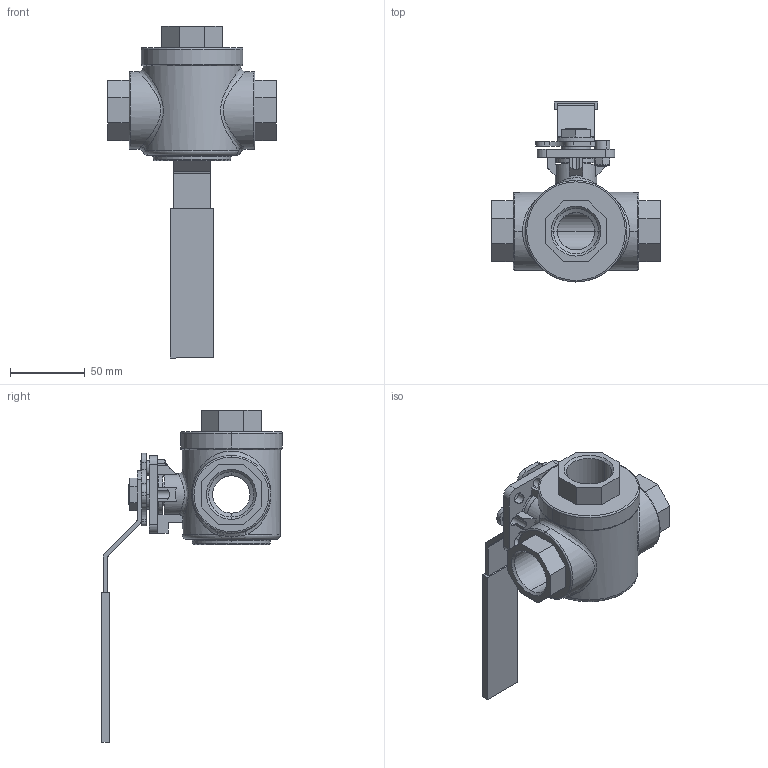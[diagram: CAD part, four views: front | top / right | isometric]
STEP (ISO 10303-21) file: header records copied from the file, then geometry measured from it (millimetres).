
FILE_DESCRIPTION (( 'STEP AP214' ), '1' );
FILE_NAME ('S57D DN25 G1 HB FB.STEP', '2013-04-02T12:21:34', ( 'Jan' ), ( '' ), 'SwSTEP 2.0', 'SolidWorks 2011', '' );
FILE_SCHEMA (( 'AUTOMOTIVE_DESIGN' ));
Length unit declared in the file: millimetre
Products named in the file (5): S57D DN25 G1 HB FB; S57D Hendel DN20 FB; S57D DN25-G1 FB; Socket Head Cap Screw_DIN_DIN 912 M6 x 12 --- 12N; Hex Nut Style 1 GradeAB_DIN_Hexagon Nut ISO 4032 - M6 - D - N
Assembly tree (4 placements, depth 2):
  S57D DN25 G1 HB FB
    S57D Hendel DN20 FB
    Socket Head Cap Screw_DIN_DIN 912 M6 x 12 --- 12N
    S57D DN25-G1 FB
    Hex Nut Style 1 GradeAB_DIN_Hexagon Nut ISO 4032 - M6 - D - N
Bounding box: 113 x 120.63 x 222.13 mm (x, y, z)
Volume: 319298.6 mm3; surface area: 68860.6 mm2
Topology: 4 solids, 4 shells, 334 faces, 859 edges, 537 vertices
Faces by surface type: plane 194, cylinder 85, cone 32, torus 18, bspline 5
Entity records: 12630 total; most frequent: CARTESIAN_POINT 4004, DIRECTION 1764, ORIENTED_EDGE 1714, EDGE_CURVE 857, AXIS2_PLACEMENT_3D 623, VERTEX_POINT 537, LINE 518, VECTOR 518
